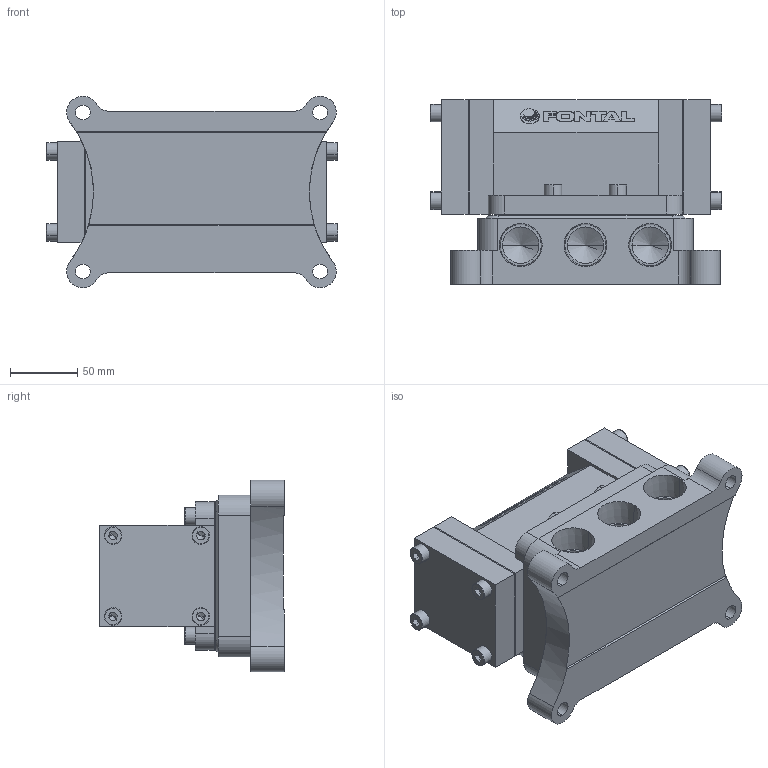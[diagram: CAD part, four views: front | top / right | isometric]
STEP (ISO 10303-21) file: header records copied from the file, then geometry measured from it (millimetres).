
FILE_DESCRIPTION (( 'STEP AP203' ), '1' );
FILE_NAME ('VMS2425-08.STEP', '2016-01-13T18:34:42', ( '' ), ( '' ), 'SwSTEP 2.0', 'SolidWorks 2014', '' );
FILE_SCHEMA (( 'CONFIG_CONTROL_DESIGN' ));
Length unit declared in the file: millimetre
Products named in the file (9): PMS2425-1; ISO 4762 M8; PMS2425-4; PM25底座-1-08; VMS2425-1; VMS2425-08; PM25-MARK-24; PMS2425-3; PMS2425-2
Assembly tree (20 placements, depth 2):
  VMS2425-08
    PMS2425-1
    PMS2425-2  x2
    ISO 4762 M8  x12
    PMS2425-4
    PMS2425-3
    PM25-MARK-24
    VMS2425-1
    PM25底座-1-08
Bounding box: 216 x 137 x 142 mm (x, y, z)
Volume: 2171832.1 mm3; surface area: 275698.5 mm2
Topology: 26 solids, 26 shells, 593 faces, 1380 edges, 841 vertices
Faces by surface type: plane 326, cylinder 139, cone 72, torus 48, bspline 8
Entity records: 10089 total; most frequent: CARTESIAN_POINT 1663, DIRECTION 1526, ORIENTED_EDGE 1436, EDGE_CURVE 718, AXIS2_PLACEMENT_3D 531, VERTEX_POINT 470, LINE 464, VECTOR 464
